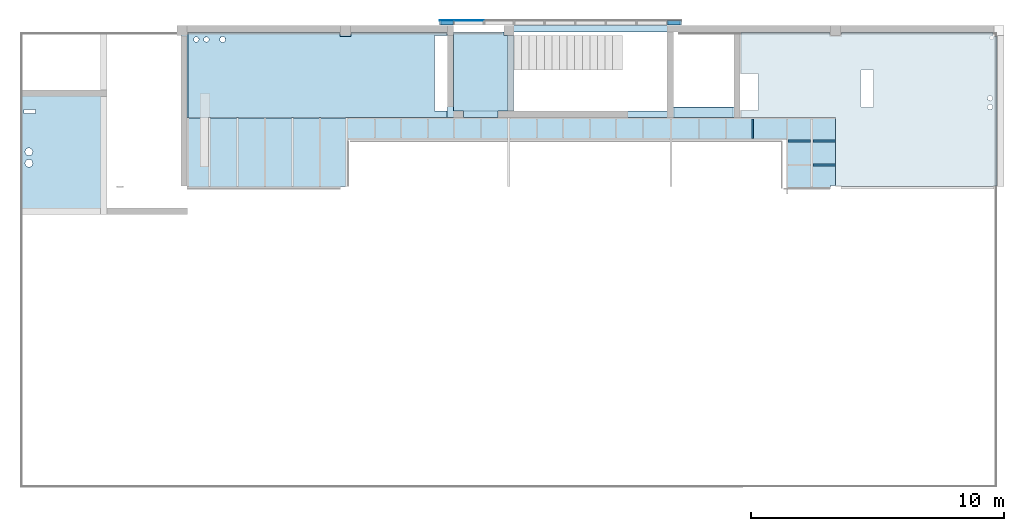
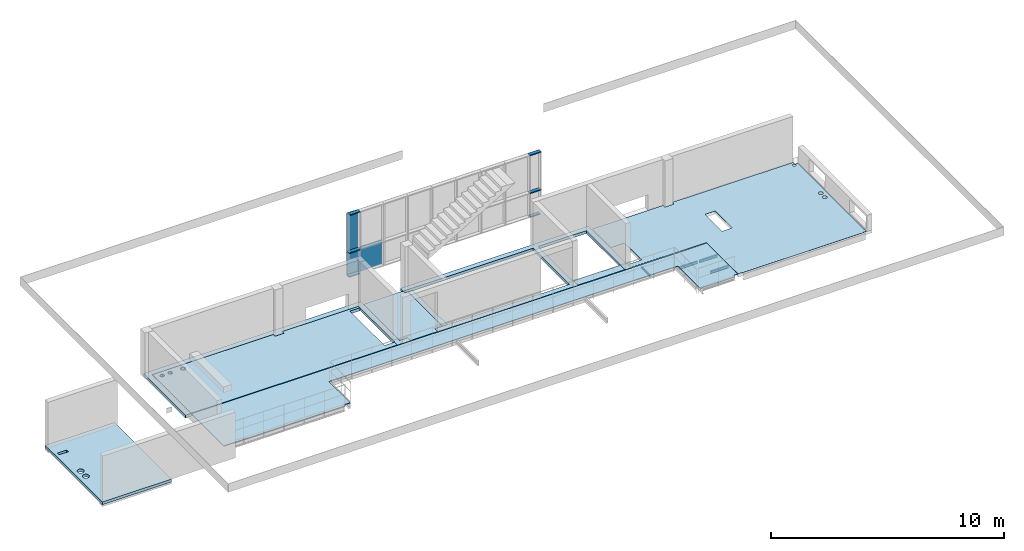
# One storey, part 5 of 8: 7 slabs, 6 members, 4 beams, 3 plates, 6 openings, 1 element without a shape of its own.
"""IFC2X3 building model written with IfcOpenShell, lengths in centimetres."""

from ifc_helpers import new_model, entity, si_unit, converted_unit, derived_unit, direction, frame, frame_2d, origin, origin_2d_with_axis, place, context, subcontext, project, spatial, polyline, circle_curve, parameter, trimmed, segment, composite_curve, rectangle, circle, i_section, outline, extrude, source, transform, mapped, material, layer, layer_set, layer_usage, type_object, type_shapes, element, aggregate, save


model = new_model("IFC2X3")

# Units and contexts
model_context = context("Model", 3, precision=0.001, world=origin(), true_north=direction((6.12303176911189e-17, 1.0)))
body_context = subcontext(model_context, "Body", "Model", "MODEL_VIEW")
ifc_project = project(units=[si_unit("LENGTHUNIT", "METRE", prefix="CENTI"), si_unit("AREAUNIT", "SQUARE_METRE"), si_unit("VOLUMEUNIT", "CUBIC_METRE"), converted_unit("PLANEANGLEUNIT", "DEGREE", entity("IfcRatioMeasure", 0.0174532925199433), si_unit("PLANEANGLEUNIT", "RADIAN"), dimensions=[0, 0, 0, 0, 0, 0, 0]), si_unit("MASSUNIT", "GRAM", prefix="KILO"), derived_unit("MASSDENSITYUNIT", [(si_unit("MASSUNIT", "GRAM", prefix="KILO"), 1), (si_unit("LENGTHUNIT", "METRE"), -3)]), derived_unit("MOMENTOFINERTIAUNIT", [(si_unit("LENGTHUNIT", "METRE"), 4)]), si_unit("TIMEUNIT", "SECOND"), si_unit("FREQUENCYUNIT", "HERTZ"), si_unit("THERMODYNAMICTEMPERATUREUNIT", "DEGREE_CELSIUS"), derived_unit("THERMALTRANSMITTANCEUNIT", [(si_unit("MASSUNIT", "GRAM", prefix="KILO"), 1), (si_unit("THERMODYNAMICTEMPERATUREUNIT", "KELVIN"), -1), (si_unit("TIMEUNIT", "SECOND"), -3)]), derived_unit("VOLUMETRICFLOWRATEUNIT", [(si_unit("LENGTHUNIT", "METRE"), 3), (si_unit("TIMEUNIT", "SECOND"), -1)]), si_unit("ELECTRICCURRENTUNIT", "AMPERE"), si_unit("ELECTRICVOLTAGEUNIT", "VOLT"), si_unit("POWERUNIT", "WATT"), si_unit("FORCEUNIT", "NEWTON", prefix="KILO"), si_unit("ILLUMINANCEUNIT", "LUX"), si_unit("LUMINOUSFLUXUNIT", "LUMEN"), si_unit("LUMINOUSINTENSITYUNIT", "CANDELA"), derived_unit("USERDEFINED", [(si_unit("MASSUNIT", "GRAM", prefix="KILO"), -1), (si_unit("LENGTHUNIT", "METRE"), -2), (si_unit("TIMEUNIT", "SECOND"), 3), (si_unit("LUMINOUSFLUXUNIT", "LUMEN"), 1)]), derived_unit("LINEARVELOCITYUNIT", [(si_unit("LENGTHUNIT", "METRE"), 1), (si_unit("TIMEUNIT", "SECOND"), -1)]), si_unit("PRESSUREUNIT", "PASCAL"), derived_unit("USERDEFINED", [(si_unit("LENGTHUNIT", "METRE"), -2), (si_unit("MASSUNIT", "GRAM", prefix="KILO"), 1), (si_unit("TIMEUNIT", "SECOND"), -2)]), derived_unit("LINEARFORCEUNIT", [(si_unit("MASSUNIT", "GRAM", prefix="KILO"), 1), (si_unit("LENGTHUNIT", "METRE"), 1), (si_unit("TIMEUNIT", "SECOND"), -2), (si_unit("LENGTHUNIT", "METRE"), -1)]), derived_unit("PLANARFORCEUNIT", [(si_unit("MASSUNIT", "GRAM", prefix="KILO"), 1), (si_unit("LENGTHUNIT", "METRE"), 1), (si_unit("TIMEUNIT", "SECOND"), -2), (si_unit("LENGTHUNIT", "METRE"), -2)])], contexts=[model_context])

# Site, building, storey
site_placement = place(None, origin())
site = spatial("IfcSite", under=ifc_project, at=site_placement, Name="Default", CompositionType="ELEMENT")
building_placement = place(site_placement, origin())
building = spatial("IfcBuilding", under=site, at=building_placement, CompositionType="ELEMENT")
storey_placement = place(building_placement, frame((0.0, 0.0, 290.0)))
storey = spatial("IfcBuildingStorey", under=building, at=storey_placement, Name="Poziom Antresola +2,90", CompositionType="ELEMENT", Elevation=290.0)

# Beams
ifc_material_1 = material(Name="Stal konstrukcyjna - S235")
beam_type_1 = type_object("IfcBeamType", Name="IPE:IPE100", PredefinedType="NOTDEFINED")
beam_1_placement = place(storey_placement, frame((-16.2651065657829, 1624.96745293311, 0.0), z_axis=(0.0, 0.0, 1.0), x_axis=(0.0, 1.0, 0.0)))
element("IfcBeam", 1, at=beam_1_placement, inside=storey, type_object=beam_type_1, material=ifc_material_1, Name="IPE:IPE100", ObjectType="IPE:IPE100", context=body_context, shape_type="SweptSolid", body=[
    extrude(i_section(OverallWidth=5.50000000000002, OverallDepth=10.0, WebThickness=0.410000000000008, FlangeThickness=0.570000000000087, FilletRadius=0.700000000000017, at=frame_2d((5.41788836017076e-14, 4.21884749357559e-15), x_axis=(0.0, 1.0))), frame((34.6600000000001, 0.0, -8.0), z_axis=(1.0, 0.0, 0.0), x_axis=(0.0, 0.0, -1.0)), (0.0, 0.0, 1.0), 76.9999993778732),
])
beam_type_2 = type_object("IfcBeamType", Name="IPE:IPE140", PredefinedType="NOTDEFINED")
beam_2_placement = place(storey_placement, frame((123.234891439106, 1649.1274528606, 0.0)))
element("IfcBeam", 2, at=beam_2_placement, inside=storey, type_object=beam_type_2, material=ifc_material_1, Name="IPE:IPE140", ObjectType="IPE:IPE140", context=body_context, shape_type="SweptSolid", body=[
    extrude(i_section(OverallWidth=7.30000000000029, OverallDepth=14.0, WebThickness=0.469999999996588, FlangeThickness=0.69000000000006, FilletRadius=0.700000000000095, at=frame_2d((8.12683254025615e-14, -2.16715534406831e-13), x_axis=(0.0, 1.0))), frame((0.0, 0.0, -10.0), z_axis=(1.0, 0.0, 0.0), x_axis=(0.0, 0.0, -1.0)), (0.0, 0.0, 1.0), 89.3999945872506),
])
beam_3_placement = place(storey_placement, frame((216.734886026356, 1555.1274524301, 0.0)))
element("IfcBeam", 3, at=beam_3_placement, inside=storey, type_object=beam_type_2, material=ifc_material_1, Name="IPE:IPE140", ObjectType="IPE:IPE140", context=body_context, shape_type="SweptSolid", body=[
    extrude(i_section(OverallWidth=7.30000000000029, OverallDepth=14.0, WebThickness=0.469999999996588, FlangeThickness=0.69000000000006, FilletRadius=0.700000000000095, at=frame_2d((8.12683254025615e-14, 4.32986979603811e-13), x_axis=(0.0, 1.0))), frame((4.10499600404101, 0.0, -10.0), z_axis=(1.0, 0.0, 0.0), x_axis=(0.0, 0.0, -1.0)), (0.0, 0.0, 1.0), 89.895008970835),
])
beam_4_placement = place(storey_placement, frame((216.734886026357, 1649.12745236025, 0.0)))
element("IfcBeam", 4, at=beam_4_placement, inside=storey, type_object=beam_type_2, material=ifc_material_1, Name="IPE:IPE140", ObjectType="IPE:IPE140", context=body_context, shape_type="SweptSolid", body=[
    extrude(i_section(OverallWidth=7.30000000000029, OverallDepth=14.0, WebThickness=0.469999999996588, FlangeThickness=0.69000000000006, FilletRadius=0.700000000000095, at=frame_2d((8.12683254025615e-14, 2.16715534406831e-13), x_axis=(0.0, 1.0))), frame((4.10000000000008, 0.0, -10.0), z_axis=(1.0, 0.0, 0.0), x_axis=(0.0, 0.0, -1.0)), (0.0, 0.0, 1.0), 89.9000049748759),
])

# Curtain wall, members
curtain_wall_type = type_object("IfcCurtainWallType", Name="Ściana osłonowa:SO2", PredefinedType="NOTDEFINED")
curtain_wall_placement = place(storey_placement, frame((0.0, 0.0, -290.0)))
curtain_wall = element("IfcCurtainWall", 5, at=curtain_wall_placement, inside=storey, type_object=curtain_wall_type, Name="Ściana osłonowa:SO2", ObjectType="Ściana osłonowa:SO2")
ifc_material_2 = material(Name="Aluminium")
member_type_1 = type_object("IfcMemberType", Name="Prostokątny szpros:50 x 175mm", PredefinedType="MULLION", material=ifc_material_2)
shared_shape_1 = source(origin(), body_context, "Body", "SweptSolid", [
    extrude(rectangle(XDim=17.5, YDim=5.0, at=origin_2d_with_axis()), frame((-2.5, 0.0, -56.0), z_axis=(0.0, 0.0, 1.0), x_axis=(0.0, -1.0, 0.0)), (0.0, 0.0, 1.0), 56.0),
])
type_shapes(member_type_1, [shared_shape_1])
member_1_placement = place(curtain_wall_placement, frame((-298.265132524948, 2116.37745208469, 761.0), z_axis=(1.0, 0.0, 0.0), x_axis=(0.0, 0.0, 1.0)))
member_1 = element("IfcMember", 6, at=member_1_placement, type_object=member_type_1, Name="Prostokątny szpros:50 x 175mm", ObjectType="Prostokątny szpros:50 x 175mm", context=body_context, shape_type="MappedRepresentation", body=[
    mapped(shared_shape_1, transform((0.0, 0.0, 0.0), scale=1.0)),
])
member_type_2 = type_object("IfcMemberType", Name="Prostokątny szpros:50 x 175mm", PredefinedType="MULLION", material=ifc_material_2)
shared_shape_2 = source(origin(), body_context, "Body", "SweptSolid", [
    extrude(rectangle(XDim=17.5, YDim=5.0, at=origin_2d_with_axis()), frame((-2.5, 0.0, -53.5000000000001), z_axis=(0.0, 0.0, 1.0), x_axis=(0.0, -1.0, 0.0)), (0.0, 0.0, 1.0), 53.5000000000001),
])
type_shapes(member_type_2, [shared_shape_2])
member_2_placement = place(curtain_wall_placement, frame((-1252.7651152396, 2116.37745208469, 432.499988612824), z_axis=(-1.0, 0.0, 0.0), x_axis=(0.0, 0.0, -1.0)))
member_2 = element("IfcMember", 7, at=member_2_placement, type_object=member_type_2, Name="Prostokątny szpros:50 x 175mm", ObjectType="Prostokątny szpros:50 x 175mm", context=body_context, shape_type="MappedRepresentation", body=[
    mapped(shared_shape_2, transform((0.0, 0.0, 0.0), scale=1.0)),
])
member_type_3 = type_object("IfcMemberType", Name="Prostokątny szpros:50 x 175mm", PredefinedType="MULLION", material=ifc_material_2)
shared_shape_3 = source(origin(), body_context, "Body", "SweptSolid", [
    extrude(rectangle(XDim=17.5, YDim=5.0, at=origin_2d_with_axis()), frame((-2.5, 0.0, -48.5000000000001), z_axis=(0.0, 0.0, 1.0), x_axis=(0.0, -1.0, 0.0)), (0.0, 0.0, 1.0), 48.5000000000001),
])
type_shapes(member_type_3, [shared_shape_3])
member_3_placement = place(curtain_wall_placement, frame((-351.765132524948, 2116.37745208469, 432.499988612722), z_axis=(-1.0, 0.0, 0.0), x_axis=(0.0, 0.0, -1.0)))
member_3 = element("IfcMember", 8, at=member_3_placement, type_object=member_type_3, Name="Prostokątny szpros:50 x 175mm", ObjectType="Prostokątny szpros:50 x 175mm", context=body_context, shape_type="MappedRepresentation", body=[
    mapped(shared_shape_3, transform((0.0, 0.0, 0.0), scale=1.0)),
])
member_type_4 = type_object("IfcMemberType", Name="Prostokątny szpros:50 x 175mm", PredefinedType="MULLION", material=ifc_material_2)
shared_shape_4 = source(origin(), body_context, "Body", "SweptSolid", [
    extrude(rectangle(XDim=17.5, YDim=5.0, at=origin_2d_with_axis()), frame((-2.5, 0.0, -51.0), z_axis=(0.0, 0.0, 1.0), x_axis=(0.0, -1.0, 0.0)), (0.0, 0.0, 1.0), 51.0000000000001),
])
type_shapes(member_type_4, [shared_shape_4])
member_4_placement = place(curtain_wall_placement, frame((-1196.7651152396, 2116.37745208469, 761.0), z_axis=(1.0, 0.0, 0.0), x_axis=(0.0, 0.0, 1.0)))
member_4 = element("IfcMember", 9, at=member_4_placement, type_object=member_type_4, Name="Prostokątny szpros:50 x 175mm", ObjectType="Prostokątny szpros:50 x 175mm", context=body_context, shape_type="MappedRepresentation", body=[
    mapped(shared_shape_4, transform((0.0, 0.0, 0.0), scale=1.0)),
])
member_type_5 = type_object("IfcMemberType", Name="Prostokątny szpros:50 x 175mm", PredefinedType="MULLION", material=ifc_material_2)
shared_shape_5 = source(origin(), body_context, "Body", "SweptSolid", [
    extrude(rectangle(XDim=17.5, YDim=5.0, at=origin_2d_with_axis()), frame((0.0, 0.0, -56.0), z_axis=(0.0, 0.0, 1.0), x_axis=(0.0, -1.0, 0.0)), (0.0, 0.0, 1.0), 56.0),
])
type_shapes(member_type_5, [shared_shape_5])
member_5_placement = place(curtain_wall_placement, frame((-1196.7651152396, 2116.37745208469, 559.999988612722), z_axis=(1.0, 0.0, 0.0), x_axis=(0.0, 0.0, 1.0)))
member_5 = element("IfcMember", 10, at=member_5_placement, type_object=member_type_5, Name="Prostokątny szpros:50 x 175mm", ObjectType="Prostokątny szpros:50 x 175mm", context=body_context, shape_type="MappedRepresentation", body=[
    mapped(shared_shape_5, transform((0.0, 0.0, 0.0), scale=1.0)),
])
member_type_6 = type_object("IfcMemberType", Name="Prostokątny szpros:50 x 175mm", PredefinedType="MULLION", material=ifc_material_2)
shared_shape_6 = source(origin(), body_context, "Body", "SweptSolid", [
    extrude(rectangle(XDim=17.5, YDim=5.0, at=origin_2d_with_axis()), frame((0.0, 0.0, -56.0), z_axis=(0.0, 0.0, 1.0), x_axis=(0.0, -1.0, 0.0)), (0.0, 0.0, 1.0), 56.0),
])
type_shapes(member_type_6, [shared_shape_6])
member_6_placement = place(curtain_wall_placement, frame((-298.265132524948, 2116.37745208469, 559.999988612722), z_axis=(1.0, 0.0, 0.0), x_axis=(0.0, 0.0, 1.0)))
member_6 = element("IfcMember", 11, at=member_6_placement, type_object=member_type_6, Name="Prostokątny szpros:50 x 175mm", ObjectType="Prostokątny szpros:50 x 175mm", context=body_context, shape_type="MappedRepresentation", body=[
    mapped(shared_shape_6, transform((0.0, 0.0, 0.0), scale=1.0)),
])

# Slab, openings
ifc_material_3 = material(Name="_Beton, C25/30")
ifc_layer_1 = layer(ifc_material_3, 15.0)
ifc_layer_set_1 = layer_set([ifc_layer_1], Name="Strop:Strop żebetowy gr. 15cm")
ifc_layer_usage_1 = layer_usage(ifc_layer_set_1, "AXIS3", "POSITIVE", 0.0)
slab_type_1 = type_object("IfcSlabType", Name="Strop:Strop żebetowy gr. 15cm", PredefinedType="FLOOR", material=ifc_layer_set_1)
slab_1_placement = place(storey_placement, frame((-2909.26510525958, 1359.12745234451, -15.0)))
slab_1 = element("IfcSlab", 12, at=slab_1_placement, inside=storey, type_object=slab_type_1, material=ifc_layer_usage_1, Name="Strop:Strop żebetowy gr. 15cm", ObjectType="Strop:Strop żebetowy gr. 15cm", PredefinedType="FLOOR", context=body_context, shape_type="SweptSolid", body=[
    extrude(rectangle(XDim=490.89999972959, YDim=343.499988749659, at=frame_2d((0.0, 0.0), x_axis=(0.0, -1.0))), frame((171.74999437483, 245.449999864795, 15.0), z_axis=(0.0, 0.0, -1.0), x_axis=(-1.0, 0.0, 0.0)), (0.0, 0.0, 1.0), 15.0),
])
opening_1_placement = place(slab_1_placement, frame((35.3814668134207, 247.499996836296, 15.0)))
element("IfcOpeningElement", 13, at=opening_1_placement, cuts=slab_1, Name="Strop:Strop żebetowy gr. 15cm:2", ObjectType="Opening", context=body_context, shape_type="SweptSolid", body=[
    extrude(circle(Radius=15.0, at=origin_2d_with_axis()), frame((0.0, 0.0, 0.0), z_axis=(0.0, 0.0, -1.0), x_axis=(1.0, 0.0, 0.0)), (0.0, 0.0, 1.0), 15.0),
])
opening_2_placement = place(slab_1_placement, frame((35.3814668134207, 202.499996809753, 15.0)))
element("IfcOpeningElement", 14, at=opening_2_placement, cuts=slab_1, Name="Strop:Strop żebetowy gr. 15cm:3", ObjectType="Opening", context=body_context, shape_type="SweptSolid", body=[
    extrude(circle(Radius=15.0, at=origin_2d_with_axis()), frame((0.0, 0.0, 0.0), z_axis=(0.0, 0.0, -1.0), x_axis=(1.0, 0.0, 0.0)), (0.0, 0.0, 1.0), 15.0),
])
opening_3_placement = place(slab_1_placement, frame((38.2499982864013, 406.499999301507, 15.0)))
element("IfcOpeningElement", 15, at=opening_3_placement, cuts=slab_1, Name="Strop:Strop żebetowy gr. 15cm:4", ObjectType="Opening", context=body_context, shape_type="SweptSolid", body=[
    extrude(rectangle(XDim=15.0000000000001, YDim=46.5000021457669, at=origin_2d_with_axis()), frame((0.0, 0.0, 0.0), z_axis=(0.0, 0.0, -1.0), x_axis=(0.0, -1.0, 0.0)), (0.0, 0.0, 1.0), 15.0),
])

# Slabs
ifc_layer_usage_2 = layer_usage(ifc_layer_set_1, "AXIS3", "POSITIVE", 0.0)
slab_type_2 = type_object("IfcSlabType", Name="Strop:Strop żebetowy gr. 15cm", PredefinedType="FLOOR", material=ifc_layer_set_1)
slab_2_placement = place(storey_placement, origin())
element("IfcSlab", 16, at=slab_2_placement, inside=storey, type_object=slab_type_2, material=ifc_layer_usage_2, Name="Strop:Strop żebetowy gr. 15cm", ObjectType="Strop:Strop żebetowy gr. 15cm", PredefinedType="FLOOR", context=body_context, shape_type="SweptSolid", body=[
    extrude(outline(polyline([(-1100.15387727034, -217.769230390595), (-1075.15387253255, -217.769230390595), (1108.3462582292, -217.76923039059), (1108.34625822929, 144.230768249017), (174.846138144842, 144.23076824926), (174.846138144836, 119.230769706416), (214.846138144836, 119.230769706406), (819.846135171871, 119.230769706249), (819.84613517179, -192.769230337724), (-22.6538547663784, -192.769230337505), (-22.6538421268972, 144.230768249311), (-1100.15387727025, 144.230768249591), (-1100.15387727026, 104.230769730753), (-1100.15387727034, -217.769230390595)]), holes=[polyline([(844.84613517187, 119.230768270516), (1083.34625822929, 119.230768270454), (1083.34625822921, -177.204489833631), (844.846135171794, -177.204489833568), (844.84613517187, 119.230768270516)]), polyline([(-47.653842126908, 104.230769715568), (-47.6538421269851, -192.769230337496), (-98.6538583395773, -192.769230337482), (-98.6538583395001, 104.230769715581), (-47.653842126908, 104.230769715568)]), composite_curve([segment(trimmed(circle_curve(frame_2d((-1039.15387341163, 89.2307697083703), x_axis=(1.0, 0.0)), 10.0), [parameter(180.0)], [parameter(0.0)], True, "PARAMETER"), False, "CONTINUOUS"), segment(trimmed(circle_curve(frame_2d((-1039.15387341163, 89.2307697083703), x_axis=(1.0, 0.0)), 10.0), [parameter(0.0)], [parameter(180.0)], True, "PARAMETER"), False, "CONTINUOUS")], self_intersect=False), composite_curve([segment(trimmed(circle_curve(frame_2d((-999.153873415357, 89.23076970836), x_axis=(1.0, 0.0)), 10.0), [parameter(180.0)], [parameter(0.0)], True, "PARAMETER"), False, "CONTINUOUS"), segment(trimmed(circle_curve(frame_2d((-999.153873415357, 89.23076970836), x_axis=(1.0, 0.0)), 10.0), [parameter(0.0)], [parameter(180.0)], True, "PARAMETER"), False, "CONTINUOUS")], self_intersect=False), composite_curve([segment(trimmed(circle_curve(frame_2d((-935.153873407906, 89.230769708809), x_axis=(1.0, 0.0)), 11.5), [parameter(180.0)], [parameter(0.0)], True, "PARAMETER"), False, "CONTINUOUS"), segment(trimmed(circle_curve(frame_2d((-935.153873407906, 89.230769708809), x_axis=(1.0, 0.0)), 11.5), [parameter(0.0)], [parameter(180.0)], True, "PARAMETER"), False, "CONTINUOUS")], self_intersect=False)]), frame((-1174.11124714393, 1960.89668234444, -15.0)), (0.0, 0.0, 1.0), 15.0),
])
ifc_material_4 = material(Name="_Metal krata pomostowa")
ifc_layer_2 = layer(ifc_material_4, 3.0)
ifc_layer_set_2 = layer_set([ifc_layer_2], Name="Strop:Podłoga techniczna z płyt pomostowych 3 cm")
ifc_layer_usage_3 = layer_usage(ifc_layer_set_2, "AXIS3", "POSITIVE", 0.0)
slab_type_3 = type_object("IfcSlabType", Name="Strop:Podłoga techniczna z płyt pomostowych 3 cm", PredefinedType="FLOOR", material=ifc_layer_set_2)
slab_3_placement = place(storey_placement, origin())
element("IfcSlab", 17, at=slab_3_placement, inside=storey, type_object=slab_type_3, material=ifc_layer_usage_3, Name="Strop:Podłoga techniczna z płyt pomostowych 3 cm", ObjectType="Strop:Podłoga techniczna z płyt pomostowych 3 cm", PredefinedType="FLOOR", context=body_context, shape_type="SweptSolid", body=[
    extrude(outline(polyline([(-82.0833333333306, -1448.91747926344), (197.416666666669, -1448.91747926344), (197.416666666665, 1108.58253540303), (-70.0833333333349, 1108.58253540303), (-70.083333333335, 1088.58253540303), (-82.0833333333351, 1088.58253540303), (-82.0833333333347, 914.582535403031), (109.916666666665, 914.582535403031), (109.916666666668, -816.415063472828), (-73.0833333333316, -816.415063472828), (-73.0833333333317, -846.415063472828), (-82.0833333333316, -846.415063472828), (-82.0833333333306, -1448.91747926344)])), frame((-797.847640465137, 1543.21078528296, 0.0), z_axis=(0.0, 0.0, -1.0), x_axis=(0.0, 1.0, 0.0)), (0.0, 0.0, 1.0), 3.00000000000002),
])

# Plate
ifc_material_5 = material(Name="Domyślny")
plate_type_1 = type_object("IfcPlateType", Name="Panel systemowy:Bryła", PredefinedType="CURTAIN_PANEL", material=ifc_material_5)
shared_shape_7 = source(origin(), body_context, "Body", "SweptSolid", [
    extrude(rectangle(XDim=2.0, YDim=56.0, at=frame_2d((-8.88178419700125e-16, 0.0), x_axis=(1.0, 0.0))), frame((0.0, 9.75, 0.0), z_axis=(0.0, 0.0, 1.0), x_axis=(0.0, 1.0, 0.0)), (0.0, 0.0, 1.0), 127.5),
])
type_shapes(plate_type_1, [shared_shape_7])
plate_1_placement = place(curtain_wall_placement, frame((-1224.7651152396, 2116.37745208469, 432.499988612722)))
plate_1 = element("IfcPlate", 18, at=plate_1_placement, type_object=plate_type_1, material=ifc_material_5, Name="Panel systemowy:Bryła", ObjectType="Panel systemowy:Bryła", context=body_context, shape_type="MappedRepresentation", body=[
    mapped(shared_shape_7, transform((0.0, 0.0, 0.0), scale=1.0)),
])

ifc_material_6 = material(Name="Szkło")
plate_type_2 = type_object("IfcPlateType", Name="Panel systemowy:Przeszklony - System strukturalny", PredefinedType="CURTAIN_PANEL", material=ifc_material_6)
shared_shape_8 = source(origin(), body_context, "Body", "SweptSolid", [
    extrude(rectangle(XDim=2.0, YDim=119.0, at=frame_2d((-8.88178419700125e-16, 0.0), x_axis=(1.0, 0.0))), frame((0.0, 9.75, 0.0), z_axis=(0.0, 0.0, 1.0), x_axis=(0.0, 1.0, 0.0)), (0.0, 0.0, 1.0), 127.5),
])
type_shapes(plate_type_2, [shared_shape_8])
plate_2_placement = place(curtain_wall_placement, frame((-1137.2651152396, 2116.37745208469, 432.499988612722)))
plate_2 = element("IfcPlate", 19, at=plate_2_placement, type_object=plate_type_2, material=ifc_material_6, Name="Panel systemowy:Przeszklony - System strukturalny", ObjectType="Panel systemowy:Przeszklony - System strukturalny", context=body_context, shape_type="MappedRepresentation", body=[
    mapped(shared_shape_8, transform((0.0, 0.0, 0.0), scale=1.0)),
])

plate_type_3 = type_object("IfcPlateType", Name="Panel systemowy:Bryła", PredefinedType="CURTAIN_PANEL", material=ifc_material_5)
shared_shape_9 = source(origin(), body_context, "Body", "SweptSolid", [
    extrude(rectangle(XDim=2.0, YDim=56.0, at=frame_2d((-8.88178419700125e-16, 0.0), x_axis=(1.0, 0.0))), frame((0.0, 9.74999999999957, 0.0), z_axis=(0.0, 0.0, 1.0), x_axis=(0.0, 1.0, 0.0)), (0.0, 0.0, 1.0), 201.000011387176),
])
type_shapes(plate_type_3, [shared_shape_9])
plate_3_placement = place(curtain_wall_placement, frame((-1224.7651152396, 2116.37745208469, 559.999988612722)))
plate_3 = element("IfcPlate", 20, at=plate_3_placement, type_object=plate_type_3, material=ifc_material_5, Name="Panel systemowy:Bryła", ObjectType="Panel systemowy:Bryła", context=body_context, shape_type="MappedRepresentation", body=[
    mapped(shared_shape_9, transform((0.0, 0.0, 0.0), scale=1.0)),
])

aggregate(curtain_wall, [plate_1, plate_2, plate_3, member_1, member_2, member_3, member_4, member_5, member_6])

# Slabs
ifc_material_7 = material(Name="Wylewka żywiczna szara")
ifc_layer_3 = layer(ifc_material_7, 0.6)
ifc_layer_set_3 = layer_set([ifc_layer_3], Name="Strop:Żywica epoksydowa pom. techniczne parter 2")
ifc_layer_usage_4 = layer_usage(ifc_layer_set_3, "AXIS3", "POSITIVE", 0.0)
slab_type_4 = type_object("IfcSlabType", Name="Strop:Żywica epoksydowa pom. techniczne parter 2", PredefinedType="FLOOR", material=ifc_layer_set_3)
slab_4_placement = place(storey_placement, origin())
element("IfcSlab", 21, at=slab_4_placement, inside=storey, type_object=slab_type_4, material=ifc_layer_usage_4, Name="Strop:Żywica epoksydowa pom. techniczne parter 2", ObjectType="Strop:Żywica epoksydowa pom. techniczne parter 2", PredefinedType="FLOOR", context=body_context, shape_type="SweptSolid", body=[
    extrude(outline(polyline([(42.3002628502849, -459.049992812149), (69.2999709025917, -459.049992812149), (69.299970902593, -85.0499932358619), (339.799970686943, -85.0499932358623), (339.799970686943, -62.5500039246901), (342.299970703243, -62.5500039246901), (342.299970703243, 537.449996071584), (339.799970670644, 537.449996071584), (339.799970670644, 552.449993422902), (-250.200029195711, 552.449993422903), (-250.200029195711, 537.449995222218), (-265.20002917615, 537.449995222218), (-265.200029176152, -62.5500047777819), (-250.200029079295, -62.5500047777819), (-250.200029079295, -107.550004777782), (-265.200029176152, -107.550004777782), (-265.200029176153, -459.049992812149), (-102.700029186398, -459.049992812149), (-102.700029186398, -391.54999237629), (42.3002628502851, -391.54999237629), (42.3002628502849, -459.049992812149)]), holes=[polyline([(28.7352303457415, 65.4499947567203), (28.7352303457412, 15.4499707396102), (-116.700320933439, 15.4499707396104), (-116.700320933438, 65.4499947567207), (28.7352303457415, 65.4499947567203)]), composite_curve([segment(trimmed(circle_curve(frame_2d((-5.76490109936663, 525.342123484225), x_axis=(0.0, 1.0)), 9.99999999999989), [parameter(180.0)], [parameter(0.0)], True, "PARAMETER"), False, "CONTINUOUS"), segment(trimmed(circle_curve(frame_2d((-5.76490109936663, 525.342123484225), x_axis=(0.0, 1.0)), 9.99999999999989), [parameter(0.0)], [parameter(180.0)], True, "PARAMETER"), False, "CONTINUOUS")], self_intersect=False), composite_curve([segment(trimmed(circle_curve(frame_2d((28.878493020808, 524.944870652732), x_axis=(0.0, 1.0)), 10.0000000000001), [parameter(180.0)], [parameter(0.0)], True, "PARAMETER"), False, "CONTINUOUS"), segment(trimmed(circle_curve(frame_2d((28.878493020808, 524.944870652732), x_axis=(0.0, 1.0)), 10.0000000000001), [parameter(0.0)], [parameter(180.0)], True, "PARAMETER"), False, "CONTINUOUS")], self_intersect=False), composite_curve([segment(trimmed(circle_curve(frame_2d((-244.743326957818, 531.830196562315), x_axis=(0.0, 1.0)), 7.49999999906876), [parameter(180.0)], [parameter(0.0)], True, "PARAMETER"), False, "CONTINUOUS"), segment(trimmed(circle_curve(frame_2d((-244.743326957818, 531.830196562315), x_axis=(0.0, 1.0)), 7.49999999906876), [parameter(0.0)], [parameter(180.0)], True, "PARAMETER"), False, "CONTINUOUS")], self_intersect=False)]), frame((395.784884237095, 1812.42742285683, 0.0), z_axis=(0.0, 0.0, 1.0), x_axis=(0.0, -1.0, 0.0)), (0.0, 0.0, 1.0), 0.600000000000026),
    extrude(outline(polyline([(-231.192307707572, -287.973217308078), (-206.192307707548, -287.973217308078), (-206.192307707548, -239.456315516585), (90.8076923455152, -239.456315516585), (90.8076923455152, -287.973217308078), (103.307692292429, -287.973217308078), (103.307692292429, -286.456432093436), (103.30769229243, 89.5435679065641), (88.3076923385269, 89.5435679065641), (88.3076923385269, 134.543699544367), (103.30769229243, 134.543699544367), (103.307692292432, 734.543698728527), (-231.192307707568, 734.543698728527), (-231.192307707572, -287.973217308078)]), holes=[composite_curve([segment(trimmed(circle_curve(frame_2d((76.0696961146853, 596.956366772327), x_axis=(0.0, -1.0)), 11.5), [parameter(180.0)], [parameter(0.0)], True, "PARAMETER"), False, "CONTINUOUS"), segment(trimmed(circle_curve(frame_2d((76.0696961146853, 596.956366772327), x_axis=(0.0, -1.0)), 11.5), [parameter(0.0)], [parameter(180.0)], True, "PARAMETER"), False, "CONTINUOUS")], self_intersect=False), composite_curve([segment(trimmed(circle_curve(frame_2d((75.8634725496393, 661.11339996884), x_axis=(0.0, -1.0)), 10.0), [parameter(180.0)], [parameter(0.0)], True, "PARAMETER"), False, "CONTINUOUS"), segment(trimmed(circle_curve(frame_2d((75.8634725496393, 661.11339996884), x_axis=(0.0, -1.0)), 10.0), [parameter(0.0)], [parameter(180.0)], True, "PARAMETER"), False, "CONTINUOUS")], self_intersect=False), composite_curve([segment(trimmed(circle_curve(frame_2d((75.8634725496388, 700.79726067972), x_axis=(0.0, -1.0)), 10.0), [parameter(180.0)], [parameter(0.0)], True, "PARAMETER"), False, "CONTINUOUS"), segment(trimmed(circle_curve(frame_2d((75.8634725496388, 700.79726067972), x_axis=(0.0, -1.0)), 10.0), [parameter(0.0)], [parameter(180.0)], True, "PARAMETER"), False, "CONTINUOUS")], self_intersect=False)]), frame((-1512.22142100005, 1974.31975971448, 0.0), z_axis=(0.0, 0.0, 1.0), x_axis=(0.0, 1.0, 0.0)), (0.0, 0.0, 1.0), 0.600000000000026),
    extrude(outline(polyline([(-72.9999876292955, -195.200000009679), (124.499992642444, -195.200000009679), (124.499992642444, 116.800000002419), (85.7499855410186, 116.80000000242), (85.7499855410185, 141.80000000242), (-49.2500144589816, 141.80000000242), (-49.2500144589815, 116.80000000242), (-87.9999760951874, 116.80000000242), (-87.9999760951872, -180.19999999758), (-72.9999876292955, -180.19999999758), (-72.9999876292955, -195.200000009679)])), frame((-1072.26509662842, 1884.92745207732, 0.0), z_axis=(0.0, 0.0, 1.0), x_axis=(-1.0, 0.0, 0.0)), (0.0, 0.0, 1.0), 0.600000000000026),
    extrude(rectangle(XDim=38.0647405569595, YDim=233.500012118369, at=frame_2d((-1.08357767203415e-13, 0.0), x_axis=(1.0, 0.0))), frame((-210.015113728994, 1762.15982223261, 0.0), z_axis=(0.0, 0.0, 1.0), x_axis=(0.0, -1.0, 0.0)), (0.0, 0.0, 1.0), 0.600000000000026),
])
ifc_layer_usage_5 = layer_usage(ifc_layer_set_1, "AXIS3", "POSITIVE", 0.0)
slab_type_5 = type_object("IfcSlabType", Name="Strop:Strop żebetowy gr. 15cm", PredefinedType="FLOOR", material=ifc_layer_set_1)
slab_5_placement = place(storey_placement, origin())
element("IfcSlab", 22, at=slab_5_placement, inside=storey, type_object=slab_type_5, material=ifc_layer_usage_5, Name="Strop:Strop żebetowy gr. 15cm", ObjectType="Strop:Strop żebetowy gr. 15cm", PredefinedType="FLOOR", context=body_context, shape_type="SweptSolid", body=[
    extrude(outline(polyline([(-144.999986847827, -109.0), (52.4999934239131, -109.0), (52.4999934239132, -94.0), (92.4999934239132, -94.0), (92.4999934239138, 203.0), (-144.999986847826, 203.0), (-144.999986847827, -109.0)])), frame((-1051.76510242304, 1971.12745202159, 0.0), z_axis=(0.0, 0.0, -1.0), x_axis=(1.0, 0.0, 0.0)), (0.0, 0.0, 1.0), 15.0),
])

# Slab, openings
ifc_layer_usage_6 = layer_usage(ifc_layer_set_3, "AXIS3", "POSITIVE", 0.0)
slab_type_6 = type_object("IfcSlabType", Name="Strop:Żywica epoksydowa pom. techniczne parter 2", PredefinedType="FLOOR", material=ifc_layer_set_3)
slab_6_placement = place(storey_placement, frame((-2246.76511972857, 1743.12745200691, 0.0)))
slab_6 = element("IfcSlab", 23, at=slab_6_placement, inside=storey, type_object=slab_type_6, material=ifc_layer_usage_6, Name="Strop:Żywica epoksydowa pom. techniczne parter 2", ObjectType="Strop:Żywica epoksydowa pom. techniczne parter 2", PredefinedType="FLOOR", context=body_context, shape_type="SweptSolid", body=[
    extrude(outline(polyline([(-511.258458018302, -167.250000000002), (511.258458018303, -167.249999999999), (511.258458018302, 167.250000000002), (-88.7415411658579, 167.25), (-88.7415411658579, 152.250000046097), (-133.741672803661, 152.250000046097), (-133.741672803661, 167.25), (-509.741672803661, 167.249999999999), (-511.258458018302, 167.249999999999), (-511.258458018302, 154.750000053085), (-462.74155622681, 154.750000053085), (-462.74155622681, -142.249999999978), (-511.258458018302, -142.249999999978), (-511.258458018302, -167.250000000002)])), frame((511.258458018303, 167.250000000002, 0.600000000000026), z_axis=(0.0, 0.0, -1.0), x_axis=(-1.0, 0.0, 0.0)), (0.0, 0.0, 1.0), 0.600000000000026),
])
opening_4_placement = place(slab_6_placement, frame((137.5873319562, 307.262003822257, 0.600000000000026)))
element("IfcOpeningElement", 24, at=opening_4_placement, cuts=slab_6, Name="Strop:Żywica epoksydowa pom. techniczne parter 2:2", ObjectType="Opening", context=body_context, shape_type="SweptSolid", body=[
    extrude(circle(Radius=11.5, at=origin_2d_with_axis()), frame((0.0, 0.0, 0.0), z_axis=(0.0, 0.0, -1.0), x_axis=(1.0, 0.0, 0.0)), (0.0, 0.0, 1.0), 0.600000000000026),
])
opening_5_placement = place(slab_6_placement, frame((73.4302987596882, 307.055780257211, 0.600000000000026)))
element("IfcOpeningElement", 25, at=opening_5_placement, cuts=slab_6, Name="Strop:Żywica epoksydowa pom. techniczne parter 2:3", ObjectType="Opening", context=body_context, shape_type="SweptSolid", body=[
    extrude(circle(Radius=10.0, at=origin_2d_with_axis()), frame((0.0, 0.0, 0.0), z_axis=(0.0, 0.0, -1.0), x_axis=(1.0, 0.0, 0.0)), (0.0, 0.0, 1.0), 0.600000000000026),
])
opening_6_placement = place(slab_6_placement, frame((33.7464380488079, 307.05578025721, 0.600000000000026)))
element("IfcOpeningElement", 26, at=opening_6_placement, cuts=slab_6, Name="Strop:Żywica epoksydowa pom. techniczne parter 2:4", ObjectType="Opening", context=body_context, shape_type="SweptSolid", body=[
    extrude(circle(Radius=10.0, at=origin_2d_with_axis()), frame((0.0, 0.0, 0.0), z_axis=(0.0, 0.0, -1.0), x_axis=(1.0, 0.0, 0.0)), (0.0, 0.0, 1.0), 0.600000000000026),
])

# Slab
ifc_layer_usage_7 = layer_usage(ifc_layer_set_3, "AXIS3", "POSITIVE", 0.0)
slab_type_7 = type_object("IfcSlabType", Name="Strop:Żywica epoksydowa pom. techniczne parter 2", PredefinedType="FLOOR", material=ifc_layer_set_3)
slab_7_placement = place(storey_placement, origin())
element("IfcSlab", 27, at=slab_7_placement, inside=storey, type_object=slab_type_7, material=ifc_layer_usage_7, Name="Strop:Żywica epoksydowa pom. techniczne parter 2", ObjectType="Strop:Żywica epoksydowa pom. techniczne parter 2", PredefinedType="FLOOR", context=body_context, shape_type="SweptSolid", body=[
    extrude(outline(polyline([(-116.800000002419, -124.499992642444), (195.20000000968, -124.499992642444), (195.200000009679, 72.9999876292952), (180.19999999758, 72.9999876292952), (180.19999999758, 87.9999760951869), (-116.80000000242, 87.9999760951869), (-116.80000000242, 49.250014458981), (-141.80000000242, 49.250014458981), (-141.800000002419, -85.749985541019), (-116.80000000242, -85.7499855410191), (-116.800000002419, -124.499992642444)])), frame((-1072.26509662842, 1884.92745207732, 0.599999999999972), z_axis=(0.0, 0.0, -1.0), x_axis=(0.0, 1.0, 0.0)), (0.0, 0.0, 1.0), 0.600000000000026),
])

save(model, "model.ifc")
